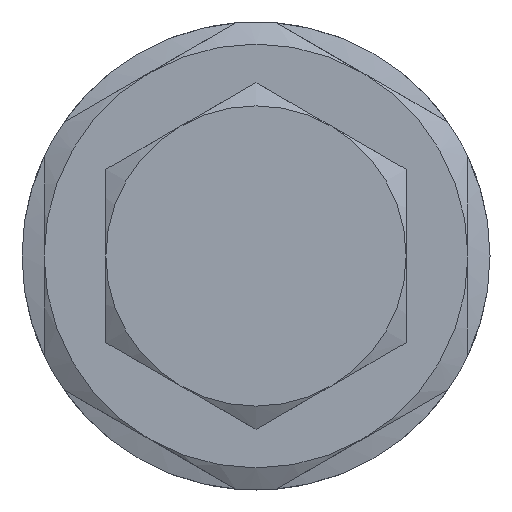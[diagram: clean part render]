
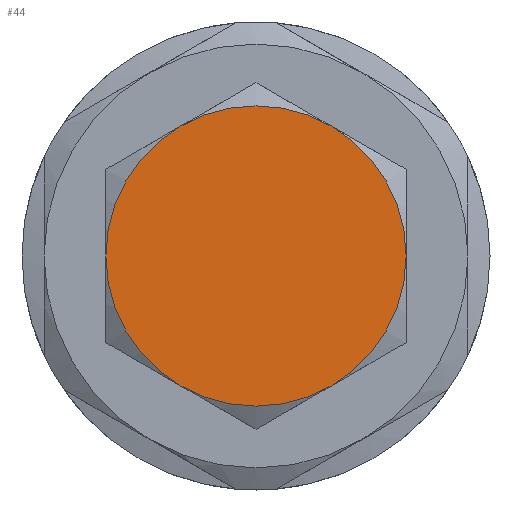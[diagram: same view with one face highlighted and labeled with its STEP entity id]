
A CAD part, front view. The second image highlights one B-rep face of the part: STEP entity #44.
In plain terms, the highlighted planar face has unit normal (0, -1, 0).
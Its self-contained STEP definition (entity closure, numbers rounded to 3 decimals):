
#44=ADVANCED_FACE('',(#98),#100,.F.);
#98=FACE_BOUND('',#99,.T.);
#99=EDGE_LOOP('',(#504,#505,#506,#507));
#100=PLANE('',#101);
#101=AXIS2_PLACEMENT_3D('',#102,#103,#104);
#102=CARTESIAN_POINT('',(0.,-8.775,0.));
#103=DIRECTION('',(0.,1.,0.));
#104=DIRECTION('',(-1.,0.,0.));
#504=ORIENTED_EDGE('',*,*,#728,.T.);
#505=ORIENTED_EDGE('',*,*,#729,.T.);
#506=ORIENTED_EDGE('',*,*,#730,.T.);
#507=ORIENTED_EDGE('',*,*,#731,.T.);
#728=EDGE_CURVE('',#840,#841,#842,.F.);
#729=EDGE_CURVE('',#841,#843,#844,.F.);
#730=EDGE_CURVE('',#843,#845,#846,.F.);
#731=EDGE_CURVE('',#845,#840,#847,.F.);
#840=VERTEX_POINT('',#1028);
#841=VERTEX_POINT('',#1029);
#842=CIRCLE('',#1030,8.5);
#843=VERTEX_POINT('',#1034);
#844=CIRCLE('',#1035,8.5);
#845=VERTEX_POINT('',#1039);
#846=CIRCLE('',#1040,8.5);
#847=CIRCLE('',#1044,8.5);
#1028=CARTESIAN_POINT('',(-4.25,-8.775,7.361));
#1029=CARTESIAN_POINT('',(-8.5,-8.775,0.));
#1030=AXIS2_PLACEMENT_3D('',#1031,#1032,#1033);
#1031=CARTESIAN_POINT('',(0.,-8.775,0.));
#1032=DIRECTION('',(0.,1.,0.));
#1033=DIRECTION('',(-1.,0.,0.));
#1034=CARTESIAN_POINT('',(-4.25,-8.775,-7.361));
#1035=AXIS2_PLACEMENT_3D('',#1036,#1037,#1038);
#1036=CARTESIAN_POINT('',(0.,-8.775,0.));
#1037=DIRECTION('',(0.,1.,0.));
#1038=DIRECTION('',(-0.5,0.,-0.866));
#1039=CARTESIAN_POINT('',(8.5,-8.775,0.));
#1040=AXIS2_PLACEMENT_3D('',#1041,#1042,#1043);
#1041=CARTESIAN_POINT('',(0.,-8.775,0.));
#1042=DIRECTION('',(0.,1.,0.));
#1043=DIRECTION('',(1.,0.,0.));
#1044=AXIS2_PLACEMENT_3D('',#1045,#1046,#1047);
#1045=CARTESIAN_POINT('',(0.,-8.775,0.));
#1046=DIRECTION('',(0.,1.,0.));
#1047=DIRECTION('',(-0.5,0.,0.866));
